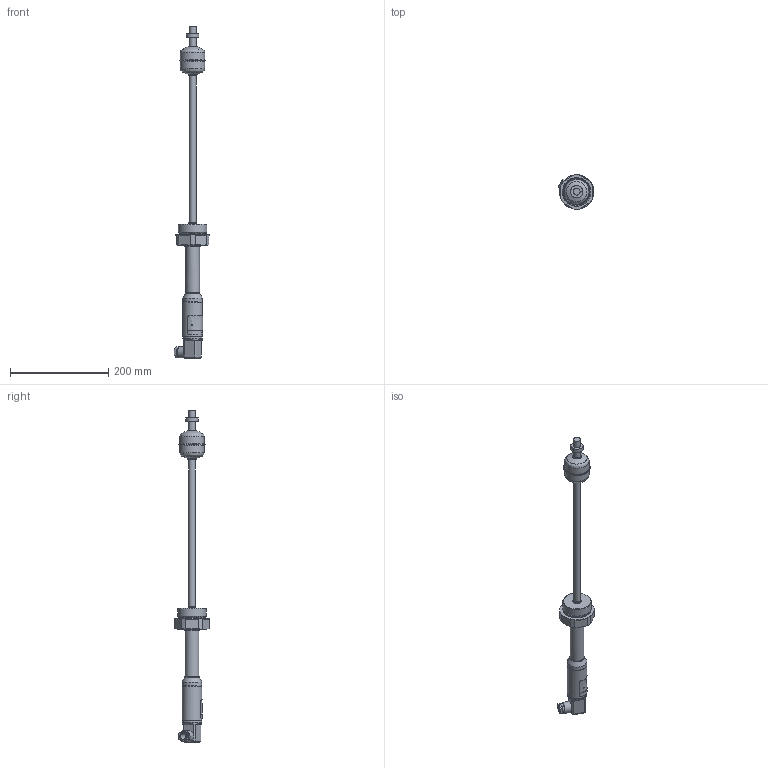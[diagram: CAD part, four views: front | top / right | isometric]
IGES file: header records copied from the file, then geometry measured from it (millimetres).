
Global section: file name: 2C; native system: Autodesk Inventor 2015; preprocessor: unknown; author: aantal; date: 20150430.171543; units: millimetre
Bounding box: 72.51 x 69.99 x 675.5 mm (x, y, z)
Volume: 495584.4 mm3; surface area: 91225.3 mm2
Topology: 9 solids, 9 shells, 249 faces, 611 edges, 400 vertices
Faces by surface type: bspline 249
